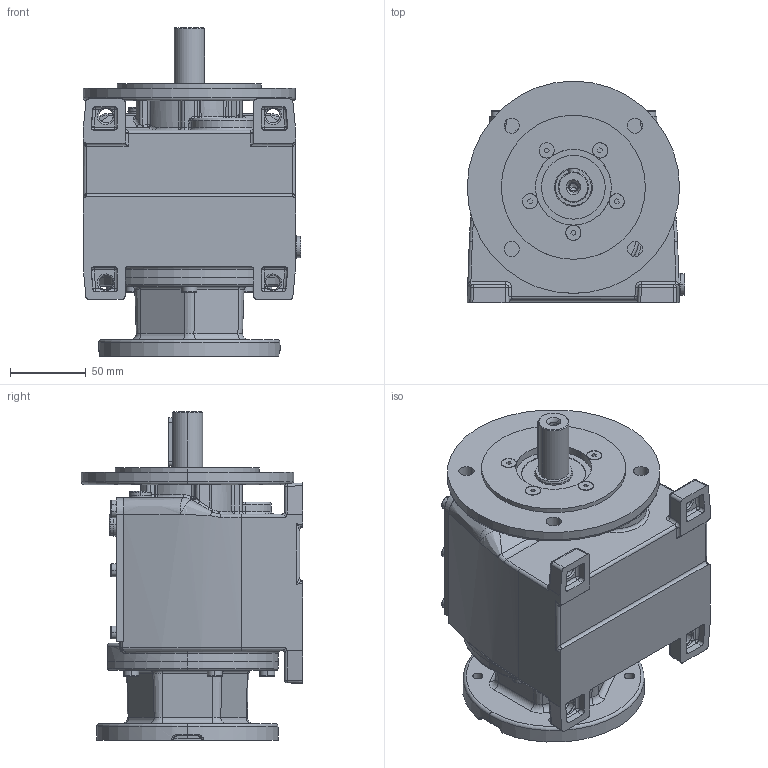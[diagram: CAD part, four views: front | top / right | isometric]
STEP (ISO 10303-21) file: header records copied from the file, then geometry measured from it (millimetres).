
FILE_DESCRIPTION (( 'STEP AP214' ), '1' );
FILE_NAME ('MTC23A-63-100+VP.STEP', '2006-05-03T10:39:03', ( '' ), ( '' ), 'SwSTEP 2.0', 'SolidWorks 2004146', '' );
FILE_SCHEMA (( 'AUTOMOTIVE_DESIGN' ));
Length unit declared in the file: millimetre
Products named in the file (6): MTC23A-63-100+VP; D6912_Šroub DIN 6912 - M6x20; D7991_Šroub DIN 7991 - M5 x 16; Výst_pøíruba MTC_A_MTC2_A; pøíruba d55 MRT60a_pøíruba 80-100-120; Skrin MTC2_A_MTC23_AP63
Assembly tree (14 placements, depth 2):
  MTC23A-63-100+VP
    D6912_Šroub DIN 6912 - M6x20  x6
    D7991_Šroub DIN 7991 - M5 x 16  x5
    Skrin MTC2_A_MTC23_AP63
    pøíruba d55 MRT60a_pøíruba 80-100-120
    Výst_pøíruba MTC_A_MTC2_A
Bounding box: 143.57 x 146 x 216.5 mm (x, y, z)
Volume: 2086660.7 mm3; surface area: 186375.8 mm2
Topology: 14 solids, 14 shells, 1549 faces, 3615 edges, 2119 vertices
Faces by surface type: plane 415, cylinder 386, torus 378, cone 244, bspline 100, sphere 26
Entity records: 92541 total; most frequent: CARTESIAN_POINT 59046, DIRECTION 6723, ORIENTED_EDGE 6154, EDGE_CURVE 3077, AXIS2_PLACEMENT_3D 2831, VERTEX_POINT 1865, CIRCLE 1626, EDGE_LOOP 1404
